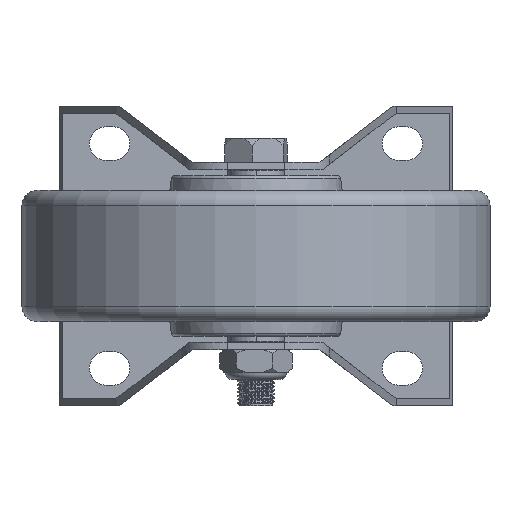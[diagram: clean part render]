
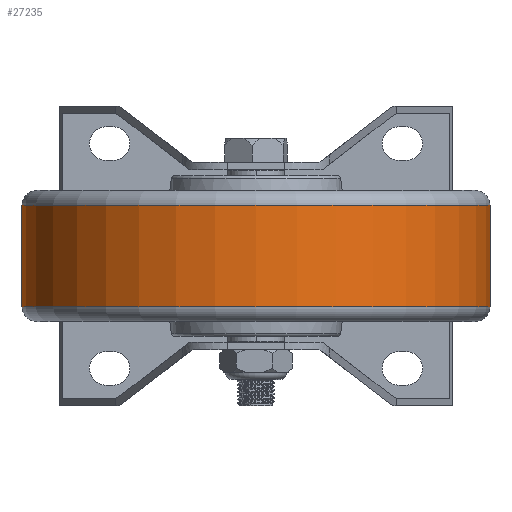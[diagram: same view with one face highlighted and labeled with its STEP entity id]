
A CAD part, front view. The second image highlights one B-rep face of the part: STEP entity #27235.
In plain terms, the highlighted cylindrical face has radius 62.5 mm (diameter 125 mm), a partial arc.
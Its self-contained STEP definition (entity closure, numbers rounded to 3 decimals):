
#1240 = EDGE_CURVE ( 'NONE', #18359, #33180, #33534, .T. ) ;
#5328 = DIRECTION ( 'NONE',  ( 0., -1., 0. ) ) ;
#8931 = CARTESIAN_POINT ( 'NONE',  ( 0., 13.5, 0. ) ) ;
#9718 = CIRCLE ( 'NONE', #41788, 62.5 ) ;
#12163 = VECTOR ( 'NONE', #39059, 1000. ) ;
#12900 = EDGE_CURVE ( 'NONE', #41232, #39900, #9718, .T. ) ;
#13478 = ORIENTED_EDGE ( 'NONE', *, *, #12900, .T. ) ;
#18359 = VERTEX_POINT ( 'NONE', #20789 ) ;
#18945 = EDGE_LOOP ( 'NONE', ( #32405, #13478, #31157, #33636 ) ) ;
#18995 = DIRECTION ( 'NONE',  ( 0., 0., -1. ) ) ;
#19517 = CARTESIAN_POINT ( 'NONE',  ( 0., 13.5, -62.5 ) ) ;
#20789 = CARTESIAN_POINT ( 'NONE',  ( 0., -13.5, 62.5 ) ) ;
#21566 = CARTESIAN_POINT ( 'NONE',  ( 0., 13.5, 62.5 ) ) ;
#22187 = DIRECTION ( 'NONE',  ( 0., -1., 0. ) ) ;
#22359 = CYLINDRICAL_SURFACE ( 'NONE', #39591, 62.5 ) ;
#23360 = FACE_OUTER_BOUND ( 'NONE', #18945, .T. ) ;
#24527 = AXIS2_PLACEMENT_3D ( 'NONE', #32471, #31983, #47703 ) ;
#27235 = ADVANCED_FACE ( 'NONE', ( #23360 ), #22359, .T. ) ;
#27729 = LINE ( 'NONE', #35673, #12163 ) ;
#29462 = EDGE_CURVE ( 'NONE', #39900, #33180, #46350, .T. ) ;
#29951 = CARTESIAN_POINT ( 'NONE',  ( 0., -13.5, -62.5 ) ) ;
#31157 = ORIENTED_EDGE ( 'NONE', *, *, #29462, .T. ) ;
#31983 = DIRECTION ( 'NONE',  ( 0., -1., 0. ) ) ;
#32044 = DIRECTION ( 'NONE',  ( 0., 0., -1. ) ) ;
#32405 = ORIENTED_EDGE ( 'NONE', *, *, #47482, .F. ) ;
#32471 = CARTESIAN_POINT ( 'NONE',  ( 0., -13.5, 0. ) ) ;
#33180 = VERTEX_POINT ( 'NONE', #29951 ) ;
#33534 = CIRCLE ( 'NONE', #24527, 62.5 ) ;
#33636 = ORIENTED_EDGE ( 'NONE', *, *, #1240, .F. ) ;
#34750 = VECTOR ( 'NONE', #22187, 1000. ) ;
#35673 = CARTESIAN_POINT ( 'NONE',  ( 0., 0., 62.5 ) ) ;
#39059 = DIRECTION ( 'NONE',  ( 0., -1., 0. ) ) ;
#39591 = AXIS2_PLACEMENT_3D ( 'NONE', #50404, #42169, #18995 ) ;
#39900 = VERTEX_POINT ( 'NONE', #19517 ) ;
#41232 = VERTEX_POINT ( 'NONE', #21566 ) ;
#41788 = AXIS2_PLACEMENT_3D ( 'NONE', #8931, #5328, #32044 ) ;
#42169 = DIRECTION ( 'NONE',  ( 0., -1., 0. ) ) ;
#45589 = CARTESIAN_POINT ( 'NONE',  ( 0., 0., -62.5 ) ) ;
#46350 = LINE ( 'NONE', #45589, #34750 ) ;
#47482 = EDGE_CURVE ( 'NONE', #41232, #18359, #27729, .T. ) ;
#47703 = DIRECTION ( 'NONE',  ( 0., 0., -1. ) ) ;
#50404 = CARTESIAN_POINT ( 'NONE',  ( 0., 0., 0. ) ) ;
